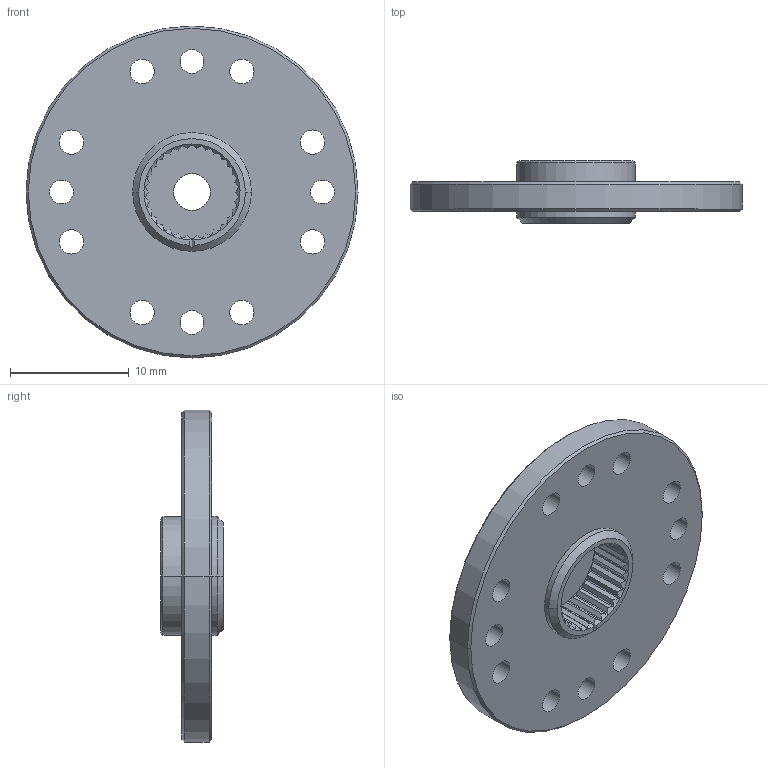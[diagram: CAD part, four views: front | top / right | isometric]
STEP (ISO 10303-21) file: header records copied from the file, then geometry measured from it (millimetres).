
FILE_DESCRIPTION((''),'2;1');
FILE_NAME('DC05_HORN_1','2009-12-02T',('yunever'),(''),'PRO/ENGINEER BY PARAMETRIC TECHNOLOGY CORPORATION, 2009060','PRO/ENGINEER BY PARAMETRIC TECHNOLOGY CORPORATION, 2009060','');
FILE_SCHEMA(('CONFIG_CONTROL_DESIGN'));
Length unit declared in the file: millimetre
Products named in the file (1): DC05_HORN_1
Bounding box: 28 x 5.3 x 28 mm (x, y, z)
Volume: 1450.6 mm3; surface area: 1731.7 mm2
Topology: 1 solids, 1 shells, 174 faces, 474 edges, 301 vertices
Faces by surface type: plane 67, cylinder 64, cone 43
Entity records: 5796 total; most frequent: CARTESIAN_POINT 1625, ORIENTED_EDGE 936, DIRECTION 739, EDGE_CURVE 468, VERTEX_POINT 301, AXIS2_PLACEMENT_3D 284, EDGE_LOOP 205, B_SPLINE_CURVE_WITH_KNOTS 187
